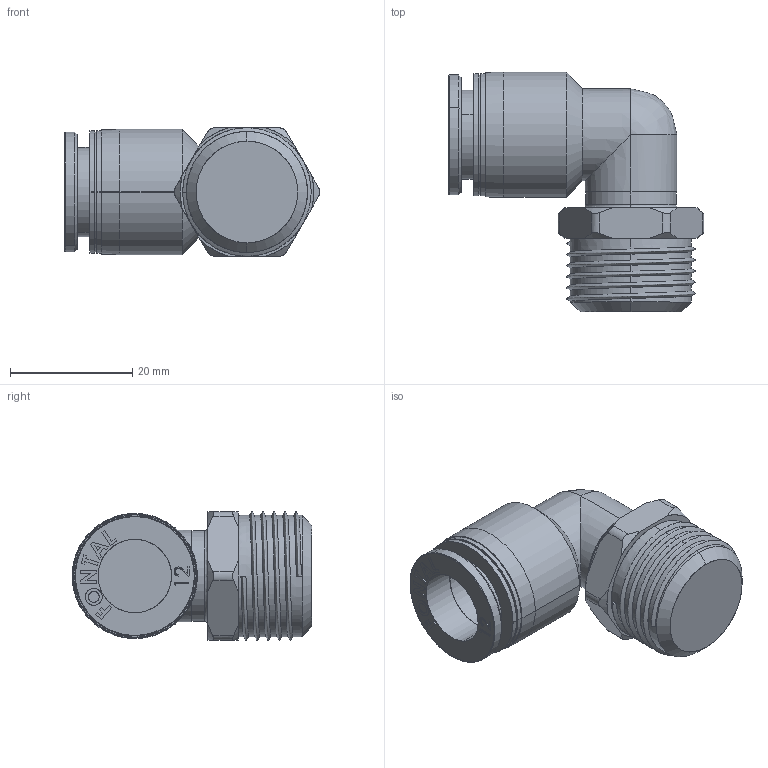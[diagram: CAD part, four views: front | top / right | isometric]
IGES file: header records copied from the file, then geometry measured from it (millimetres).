
Start section: SolidWorks IGES file using analytic representation for surfaces
Global section: file name: D:\Custom\3D繪製\ADDITIONAL\FPL\FPL12-04.IGS,1; native system: 5HSolidWorks 2014; preprocessor: SolidWorks 2014; author: Chieh_Lu; date: 160115.050134; units: millimetre
Bounding box: 41.74 x 39.19 x 21 mm (x, y, z)
Surface area: 6218.4 mm2 (no closed solid volume)
Topology: 0 solids, 0 shells, 175 faces, 2301 edges, 2299 vertices
Faces by surface type: bspline 112, revolution 63
